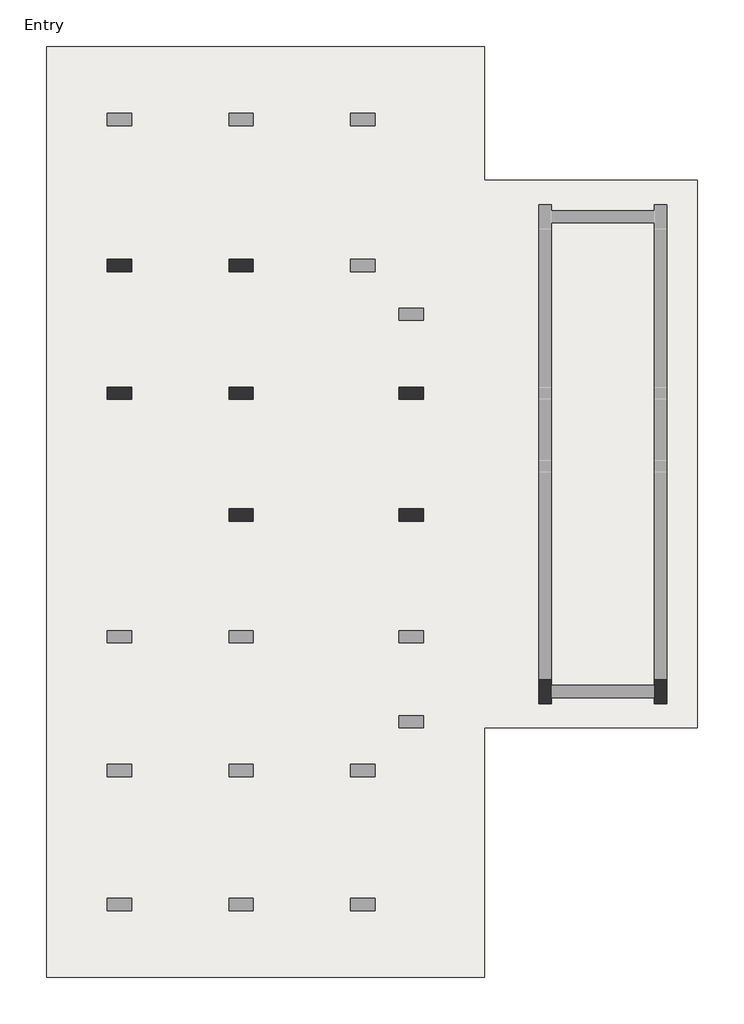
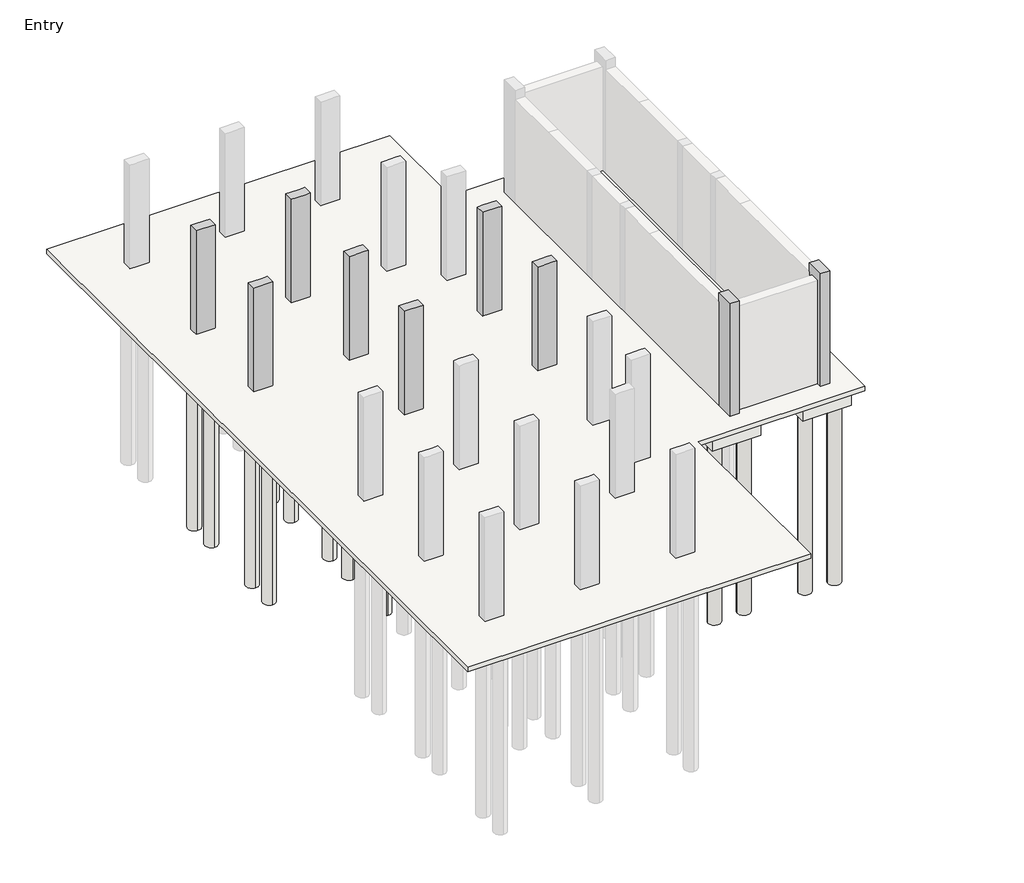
# One storey, part 2 of 3: 36 slabs, 9 columns, 3 footings.
"""IFC4 building model written with IfcOpenShell, lengths in millimetres."""

from ifc_helpers import new_model, si_unit, point, frame, frame_2d, origin, place, context, project, spatial, polyline, circle_curve, trimmed, segment, composite_curve, outline, extrude, faceted_brep, element, save

model = new_model("IFC4")

# Units and contexts
model_context = context("Model", 3, world=origin())
ifc_project = project(units=[si_unit("LENGTHUNIT", "METRE", prefix="MILLI")], contexts=[model_context])

# Site, building, storey
site = spatial("IfcSite", under=ifc_project)
building = spatial("IfcBuilding", under=site)
storey = spatial("IfcBuildingStorey", under=building, Name="Entry", Elevation=0.0)

# Columns
placement = place(None, origin())
element("IfcColumn", 1, ObjectType="Concrete-Rectangular-Column : 12 x 24", at=placement, inside=storey, context=model_context, shape_type="Brep", body=[
    faceted_brep([(-15967.1663981, 6616.5487848, 0.0), (-15357.5663981, 6616.5487848, 0.0), (-15357.5663981, 6311.7487848, 0.0), (-15967.1663981, 6311.7487848, 0.0), (-15967.1663981, 6616.5487848, 3505.2), (-15814.7663981, 6616.5487848, 3505.2), (-15509.9663981, 6616.5487848, 3505.2), (-15357.5663981, 6616.5487848, 3505.2), (-15357.5663981, 6616.5487848, 2895.6), (-15357.5663981, 6311.7487848, 3505.2), (-15357.5663981, 6311.7487848, 2895.6), (-15509.9663981, 6311.7487848, 3505.2), (-15814.7663981, 6311.7487848, 3505.2), (-15967.1663981, 6311.7487848, 3505.2)], [[[0, 1, 2, 3]], [[4, 5, 6, 7, 8, 1, 0]], [[7, 9, 10, 2, 1, 8]], [[9, 11, 12, 13, 3, 2, 10]], [[13, 4, 0, 3]], [[4, 13, 12, 11, 9, 7, 6, 5]]]),
])
element("IfcColumn", 2, ObjectType="Concrete-Rectangular-Column : 12 x 24", at=placement, inside=storey, context=model_context, shape_type="Brep", body=[
    faceted_brep([(-15967.1663981, 3416.1487848, 0.0), (-15357.5663981, 3416.1487848, 0.0), (-15357.5663981, 3111.3487848, 0.0), (-15967.1663981, 3111.3487848, 0.0), (-15967.1663981, 3416.1487848, 3505.2), (-15814.7663981, 3416.1487848, 3505.2), (-15509.9663981, 3416.1487848, 3505.2), (-15357.5663981, 3416.1487848, 3505.2), (-15357.5663981, 3416.1487848, 2895.6), (-15357.5663981, 3111.3487848, 3505.2), (-15357.5663981, 3111.3487848, 2895.6), (-15967.1663981, 3111.3487848, 3505.2)], [[[0, 1, 2, 3]], [[4, 5, 6, 7, 8, 1, 0]], [[7, 9, 10, 2, 1, 8]], [[9, 11, 3, 2, 10]], [[11, 4, 0, 3]], [[4, 11, 9, 7, 6, 5]]]),
])
element("IfcColumn", 3, ObjectType="Concrete-Rectangular-Column : 12 x 24", at=placement, inside=storey, context=model_context, shape_type="Brep", body=[
    faceted_brep([(-12919.1663981, 368.1487848, 0.0), (-12309.5663981, 368.1487848, 0.0), (-12309.5663981, 63.3487848, 0.0), (-12919.1663981, 63.3487848, 0.0), (-12919.1663981, 368.1487848, 3505.2), (-12766.7663981, 368.1487848, 3505.2), (-12461.9663981, 368.1487848, 3505.2), (-12309.5663981, 368.1487848, 3505.2), (-12309.5663981, 368.1487848, 2895.6), (-12309.5663981, 63.3487848, 3505.2), (-12309.5663981, 63.3487848, 2895.6), (-12461.9663981, 63.3487848, 3505.2), (-12766.7663981, 63.3487848, 3505.2), (-12919.1663981, 63.3487848, 3505.2)], [[[0, 1, 2, 3]], [[4, 5, 6, 7, 8, 1, 0]], [[7, 9, 10, 2, 1, 8]], [[9, 11, 12, 13, 3, 2, 10]], [[13, 4, 0, 3]], [[4, 13, 12, 11, 9, 7, 6, 5]]]),
])
element("IfcColumn", 4, ObjectType="Concrete-Rectangular-Column : 12 x 24", at=placement, inside=storey, context=model_context, shape_type="Brep", body=[
    faceted_brep([(-12919.1663981, 3416.1487848, 0.0), (-12309.5663981, 3416.1487848, 0.0), (-12309.5663981, 3111.3487848, 0.0), (-12919.1663981, 3111.3487848, 0.0), (-12919.1663981, 3416.1487848, 3505.2), (-12766.7663981, 3416.1487848, 3505.2), (-12461.9663981, 3416.1487848, 3505.2), (-12309.5663981, 3416.1487848, 3505.2), (-12309.5663981, 3416.1487848, 2895.6), (-12919.1663981, 3416.1487848, 2895.6), (-12309.5663981, 3111.3487848, 3505.2), (-12309.5663981, 3111.3487848, 2895.6), (-12461.9663981, 3111.3487848, 3505.2), (-12766.7663981, 3111.3487848, 3505.2), (-12919.1663981, 3111.3487848, 3505.2), (-12919.1663981, 3111.3487848, 2895.6)], [[[0, 1, 2, 3]], [[4, 5, 6, 7, 8, 1, 0, 9]], [[7, 10, 11, 2, 1, 8]], [[10, 12, 13, 14, 15, 3, 2, 11]], [[14, 4, 9, 0, 3, 15]], [[4, 14, 13, 12, 10, 7, 6, 5]]]),
])
element("IfcColumn", 5, ObjectType="Concrete-Rectangular-Column : 12 x 24", at=placement, inside=storey, context=model_context, shape_type="Brep", body=[
    faceted_brep([(-12919.1663981, 6616.5487848, 0.0), (-12309.5663981, 6616.5487848, 0.0), (-12309.5663981, 6311.7487848, 0.0), (-12919.1663981, 6311.7487848, 0.0), (-12919.1663981, 6616.5487848, 3505.2), (-12766.7663981, 6616.5487848, 3505.2), (-12461.9663981, 6616.5487848, 3505.2), (-12309.5663981, 6616.5487848, 3505.2), (-12309.5663981, 6616.5487848, 2895.6), (-12919.1663981, 6616.5487848, 2895.6), (-12309.5663981, 6311.7487848, 3505.2), (-12309.5663981, 6311.7487848, 2895.6), (-12461.9663981, 6311.7487848, 3505.2), (-12766.7663981, 6311.7487848, 3505.2), (-12919.1663981, 6311.7487848, 3505.2), (-12919.1663981, 6311.7487848, 2895.6)], [[[0, 1, 2, 3]], [[4, 5, 6, 7, 8, 1, 0, 9]], [[7, 10, 11, 2, 1, 8]], [[10, 12, 13, 14, 15, 3, 2, 11]], [[14, 4, 9, 0, 3, 15]], [[4, 14, 13, 12, 10, 7, 6, 5]]]),
])
element("IfcColumn", 6, ObjectType="Concrete-Rectangular-Column : 12 x 24", at=placement, inside=storey, context=model_context, shape_type="Brep", body=[
    faceted_brep([(-8651.9663981, 3416.1487848, 0.0), (-8042.3663981, 3416.1487848, 0.0), (-8042.3663981, 3111.3487848, 0.0), (-8651.9663981, 3111.3487848, 0.0), (-8651.9663981, 3416.1487848, 3505.2), (-8499.5663981, 3416.1487848, 3505.2), (-8194.7663981, 3416.1487848, 3505.2), (-8042.3663981, 3416.1487848, 3505.2), (-8042.3663981, 3416.1487848, 2895.6), (-8651.9663981, 3416.1487848, 2895.6), (-8042.3663981, 3111.3487848, 3505.2), (-8042.3663981, 3111.3487848, 2895.6), (-8194.7663981, 3111.3487848, 3505.2), (-8499.5663981, 3111.3487848, 3505.2), (-8651.9663981, 3111.3487848, 3505.2), (-8651.9663981, 3111.3487848, 2895.6)], [[[0, 1, 2, 3]], [[4, 5, 6, 7, 8, 1, 0, 9]], [[7, 10, 11, 2, 1, 8]], [[10, 12, 13, 14, 15, 3, 2, 11]], [[14, 4, 9, 0, 3, 15]], [[4, 14, 13, 12, 10, 7, 6, 5]]]),
])
element("IfcColumn", 7, ObjectType="Concrete-Rectangular-Column : 12 x 24", at=placement, inside=storey, context=model_context, shape_type="Brep", body=[
    faceted_brep([(-8651.9663981, 368.1487848, 0.0), (-8042.3663981, 368.1487848, 0.0), (-8042.3663981, 63.3487848, 0.0), (-8651.9663981, 63.3487848, 0.0), (-8651.9663981, 368.1487848, 3505.2), (-8499.5663981, 368.1487848, 3505.2), (-8194.7663981, 368.1487848, 3505.2), (-8042.3663981, 368.1487848, 3505.2), (-8651.9663981, 368.1487848, 2895.6), (-8042.3663981, 63.3487848, 3505.2), (-8194.7663981, 63.3487848, 3505.2), (-8499.5663981, 63.3487848, 3505.2), (-8651.9663981, 63.3487848, 3505.2), (-8651.9663981, 63.3487848, 2895.6)], [[[0, 1, 2, 3]], [[4, 5, 6, 7, 1, 0, 8]], [[7, 9, 2, 1]], [[9, 10, 11, 12, 13, 3, 2]], [[12, 4, 8, 0, 3, 13]], [[4, 12, 11, 10, 9, 7, 6, 5]]]),
])
element("IfcColumn", 8, ObjectType="Concrete-Rectangular-Column : 12 x 24", at=placement, inside=storey, context=model_context, shape_type="Brep", body=[
    faceted_brep([(-5146.7663981, -4508.6512152, 0.0), (-5146.7663981, -3899.0512152, 0.0), (-4841.9663981, -3899.0512152, 0.0), (-4841.9663981, -4051.4512152, 0.0), (-4841.9663981, -4356.2512152, 0.0), (-4841.9663981, -4508.6512152, 0.0), (-5146.7663981, -4508.6512152, 3810.0), (-5146.7663981, -3899.0512152, 3810.0), (-5146.7663981, -3899.0512152, 3505.2), (-4841.9663981, -3899.0512152, 3810.0), (-4841.9663981, -3899.0512152, 3505.2), (-4841.9663981, -4508.6512152, 3810.0)], [[[0, 1, 2, 3, 4, 5]], [[6, 7, 8, 1, 0]], [[7, 9, 10, 2, 1, 8]], [[9, 11, 5, 4, 3, 2, 10]], [[11, 6, 0, 5]], [[6, 11, 9, 7]]]),
])
element("IfcColumn", 9, ObjectType="Concrete-Rectangular-Column : 12 x 24", at=placement, inside=storey, context=model_context, shape_type="Brep", body=[
    faceted_brep([(-2251.1663981, -4508.6512152, 0.0), (-2251.1663981, -4356.2512152, 0.0), (-2251.1663981, -4051.4512152, 0.0), (-2251.1663981, -3899.0512152, 0.0), (-1946.3663981, -3899.0512152, 0.0), (-1946.3663981, -4508.6512152, 0.0), (-2251.1663981, -4508.6512152, 3810.0), (-2251.1663981, -3899.0512152, 3810.0), (-2251.1663981, -3899.0512152, 3505.2), (-1946.3663981, -3899.0512152, 3810.0), (-1946.3663981, -3899.0512152, 3505.2), (-1946.3663981, -4508.6512152, 3810.0)], [[[0, 1, 2, 3, 4, 5]], [[6, 7, 8, 3, 2, 1, 0]], [[7, 9, 10, 4, 3, 8]], [[9, 11, 5, 4, 10]], [[11, 6, 0, 5]], [[6, 11, 9, 7]]]),
])

# Footings
element("IfcFooting", 10, ObjectType="Bearing Footing - 36\" x 12\"", at=placement, inside=storey, context=model_context, shape_type="Brep", body=[
    faceted_brep([(-5400.7663981, 1282.5487848, -304.8), (-5451.5663981, 1282.5487848, -304.8), (-5451.5663981, 1282.5487848, -152.4), (-5400.7663981, 1282.5487848, -152.4), (-4537.1663981, 1282.5487848, -304.8), (-4587.9663981, 1282.5487848, -304.8), (-4587.9663981, 1282.5487848, -152.4), (-4537.1663981, 1282.5487848, -152.4), (-4537.1663981, -3797.4512152, -304.8), (-4537.1663981, -3746.6512152, -304.8), (-4537.1663981, -3746.6512152, -152.4), (-4537.1663981, -3797.4512152, -152.4), (-5400.7663981, 660.2487848, -304.8), (-4587.9663981, 660.2487848, -304.8), (-5451.5663981, -3797.4512152, -304.8), (-5451.5663981, -3797.4512152, -152.4), (-5400.7663981, 660.2487848, -152.4), (-4587.9663981, 660.2487848, -152.4)], [[[0, 1, 2, 3]], [[4, 5, 6, 7]], [[8, 9, 4, 7, 10, 11]], [[1, 0, 12, 13, 5, 4, 9, 8, 14]], [[1, 14, 15, 2]], [[12, 0, 3, 16]], [[13, 12, 16, 17]], [[5, 13, 17, 6]], [[14, 8, 11, 15]], [[7, 6, 17, 16, 3, 2, 15, 11, 10]]]),
])
element("IfcFooting", 11, ObjectType="Bearing Footing - 36\" x 12\"", at=placement, inside=storey, context=model_context, shape_type="Brep", body=[
    faceted_brep([(-2505.1663981, 1282.5487848, -304.8), (-2555.9663981, 1282.5487848, -304.8), (-2555.9663981, 1282.5487848, -152.4), (-2505.1663981, 1282.5487848, -152.4), (-1641.5663981, 1282.5487848, -304.8), (-1692.3663981, 1282.5487848, -304.8), (-1692.3663981, 1282.5487848, -152.4), (-1641.5663981, 1282.5487848, -152.4), (-1641.5663981, -3797.4512152, -304.8), (-1641.5663981, -3797.4512152, -152.4), (-2505.1663981, 660.2487848, -304.8), (-1692.3663981, 660.2487848, -304.8), (-2555.9663981, -3797.4512152, -304.8), (-2555.9663981, -3746.6512152, -304.8), (-2555.9663981, -3797.4512152, -152.4), (-2555.9663981, -3746.6512152, -152.4), (-2505.1663981, 660.2487848, -152.4), (-1692.3663981, 660.2487848, -152.4)], [[[0, 1, 2, 3]], [[4, 5, 6, 7]], [[8, 4, 7, 9]], [[1, 0, 10, 11, 5, 4, 8, 12, 13]], [[1, 13, 12, 14, 15, 2]], [[10, 0, 3, 16]], [[11, 10, 16, 17]], [[5, 11, 17, 6]], [[12, 8, 9, 14]], [[7, 6, 17, 16, 3, 2, 15, 14, 9]]]),
])
element("IfcFooting", 12, ObjectType="Bearing Footing - 36\" x 12\"", at=placement, inside=storey, context=model_context, shape_type="SweptSolid", body=[
    extrude(outline(polyline([(-2251.1663981, -4661.0512152), (-4841.9663981, -4661.0512152), (-4841.9663981, -4610.2512152), (-4219.6663981, -4610.2512152), (-4219.6663981, -3797.4512152), (-4537.1663981, -3797.4512152), (-4537.1663981, -3746.6512152), (-2555.9663981, -3746.6512152), (-2555.9663981, -3797.4512152), (-2873.4663981, -3797.4512152), (-2873.4663981, -4610.2512152), (-2251.1663981, -4610.2512152), (-2251.1663981, -4661.0512152)])), frame((0.0, 0.0, -304.8), z_axis=(0.0, 0.0, 1.0), x_axis=(1.0, 0.0, 0.0)), (0.0, 0.0, 1.0), 152.4),
])

# Slabs
element("IfcSlab", 13, ObjectType="6\" Foundation Slab", at=placement, inside=storey, context=model_context, shape_type="SweptSolid", body=[
    extrude(outline(polyline([(-6518.3663981, 11950.5487848), (-6518.3663981, 8597.7487848), (-1184.3663981, 8597.7487848), (-1184.3663981, -5118.2512152), (-6518.3663981, -5118.2512152), (-6518.3663981, -11366.6512152), (-17491.1663981, -11366.6512152), (-17491.1663981, 11950.5487848), (-6518.3663981, 11950.5487848)])), frame((0.0, 0.0, -152.4), z_axis=(0.0, 0.0, 1.0), x_axis=(1.0, 0.0, 0.0)), (0.0, 0.0, 1.0), 152.4),
])
element("IfcSlab", 14, ObjectType="Pile Cap-2 Pile : 31\"x61\"x35\"", at=placement, inside=storey, context=model_context, shape_type="SweptSolid", body=[
    extrude(outline(polyline([(-16068.7663981, 7238.8487848), (-15255.9663981, 7238.8487848), (-15255.9663981, 5689.4487848), (-16068.7663981, 5689.4487848), (-16068.7663981, 7238.8487848)])), frame((0.0, 0.0, -889.0), z_axis=(0.0, 0.0, 1.0), x_axis=(1.0, 0.0, 0.0)), (0.0, 0.0, 1.0), 736.6),
])
element("IfcSlab", 15, ObjectType="Pile Cap-2 Pile : 31\"x61\"x35\"", at=placement, inside=storey, context=model_context, shape_type="SweptSolid", body=[
    extrude(outline(polyline([(-16068.7663981, 4038.4487848), (-15255.9663981, 4038.4487848), (-15255.9663981, 2489.0487848), (-16068.7663981, 2489.0487848), (-16068.7663981, 4038.4487848)])), frame((0.0, 0.0, -889.0), z_axis=(0.0, 0.0, 1.0), x_axis=(1.0, 0.0, 0.0)), (0.0, 0.0, 1.0), 736.6),
])
element("IfcSlab", 16, ObjectType="Pile Cap-2 Pile : 31\"x61\"x35\"", at=placement, inside=storey, context=model_context, shape_type="SweptSolid", body=[
    extrude(outline(polyline([(-8753.5663981, -2057.5512152), (-7940.7663981, -2057.5512152), (-7940.7663981, -3606.9512152), (-8753.5663981, -3606.9512152), (-8753.5663981, -2057.5512152)])), frame((0.0, 0.0, -889.0), z_axis=(0.0, 0.0, 1.0), x_axis=(1.0, 0.0, 0.0)), (0.0, 0.0, 1.0), 736.6),
])
element("IfcSlab", 17, ObjectType="Pile Cap-2 Pile : 31\"x61\"x35\"", at=placement, inside=storey, context=model_context, shape_type="SweptSolid", body=[
    extrude(outline(polyline([(-8753.5663981, 990.4487848), (-7940.7663981, 990.4487848), (-7940.7663981, -558.9512152), (-8753.5663981, -558.9512152), (-8753.5663981, 990.4487848)])), frame((0.0, 0.0, -889.0), z_axis=(0.0, 0.0, 1.0), x_axis=(1.0, 0.0, 0.0)), (0.0, 0.0, 1.0), 736.6),
])
element("IfcSlab", 18, ObjectType="Pile Cap-2 Pile : 31\"x61\"x35\"", at=placement, inside=storey, context=model_context, shape_type="SweptSolid", body=[
    extrude(outline(polyline([(-8753.5663981, 4038.4487848), (-7940.7663981, 4038.4487848), (-7940.7663981, 2489.0487848), (-8753.5663981, 2489.0487848), (-8753.5663981, 4038.4487848)])), frame((0.0, 0.0, -889.0), z_axis=(0.0, 0.0, 1.0), x_axis=(1.0, 0.0, 0.0)), (0.0, 0.0, 1.0), 736.6),
])
element("IfcSlab", 19, ObjectType="Pile Cap-2 Pile : 31\"x61\"x35\"", at=placement, inside=storey, context=model_context, shape_type="Brep", body=[
    faceted_brep([(-5769.0663981, -4610.2512152, -889.0), (-5769.0663981, -3797.4512152, -889.0), (-4219.6663981, -3797.4512152, -889.0), (-4219.6663981, -4610.2512152, -889.0), (-4219.6663981, -4610.2512152, -304.8), (-4219.6663981, -4610.2512152, -152.4), (-4841.9663981, -4610.2512152, -152.4), (-5769.0663981, -4610.2512152, -152.4), (-4219.6663981, -3797.4512152, -304.8), (-4219.6663981, -3797.4512152, -152.4), (-5769.0663981, -3797.4512152, -152.4), (-5451.5663981, -3797.4512152, -152.4), (-4537.1663981, -3797.4512152, -152.4)], [[[0, 1, 2, 3]], [[0, 3, 4, 5, 6, 7]], [[3, 2, 8, 9, 5, 4]], [[2, 1, 10, 11, 12, 9, 8]], [[1, 0, 7, 10]], [[7, 6, 5, 9, 12, 11, 10]]]),
])
element("IfcSlab", 20, ObjectType="Pile Cap-2 Pile : 31\"x61\"x35\"", at=placement, inside=storey, context=model_context, shape_type="Brep", body=[
    faceted_brep([(-2873.4663981, -4610.2512152, -889.0), (-2873.4663981, -3797.4512152, -889.0), (-1324.0663981, -3797.4512152, -889.0), (-1324.0663981, -4610.2512152, -889.0), (-1324.0663981, -4610.2512152, -152.4), (-2251.1663981, -4610.2512152, -152.4), (-2873.4663981, -4610.2512152, -152.4), (-2873.4663981, -4610.2512152, -304.8), (-1324.0663981, -3797.4512152, -152.4), (-2873.4663981, -3797.4512152, -304.8), (-2873.4663981, -3797.4512152, -152.4), (-2555.9663981, -3797.4512152, -152.4), (-1641.5663981, -3797.4512152, -152.4)], [[[0, 1, 2, 3]], [[0, 3, 4, 5, 6, 7]], [[3, 2, 8, 4]], [[2, 1, 9, 10, 11, 12, 8]], [[1, 0, 7, 6, 10, 9]], [[6, 5, 4, 8, 12, 11, 10]]]),
])
element("IfcSlab", 21, ObjectType="Pile Cap-4 Pile : 72\"x72\"x35\"", at=placement, inside=storey, context=model_context, shape_type="SweptSolid", body=[
    extrude(outline(polyline([(-13528.7663981, 7378.5487848), (-11699.9663981, 7378.5487848), (-11699.9663981, 5549.7487848), (-13528.7663981, 5549.7487848), (-13528.7663981, 7378.5487848)])), frame((0.0, 0.0, -889.0), z_axis=(0.0, 0.0, 1.0), x_axis=(1.0, 0.0, 0.0)), (0.0, 0.0, 1.0), 736.6),
])
element("IfcSlab", 22, ObjectType="Pile Cap-4 Pile : 72\"x72\"x35\"", at=placement, inside=storey, context=model_context, shape_type="SweptSolid", body=[
    extrude(outline(polyline([(-13528.7663981, 4178.1487848), (-11699.9663981, 4178.1487848), (-11699.9663981, 2349.3487848), (-13528.7663981, 2349.3487848), (-13528.7663981, 4178.1487848)])), frame((0.0, 0.0, -889.0), z_axis=(0.0, 0.0, 1.0), x_axis=(1.0, 0.0, 0.0)), (0.0, 0.0, 1.0), 736.6),
])
element("IfcSlab", 23, ObjectType="Pile Cap-4 Pile : 72\"x72\"x35\"", at=placement, inside=storey, context=model_context, shape_type="SweptSolid", body=[
    extrude(outline(polyline([(-13528.7663981, 1130.1487848), (-11699.9663981, 1130.1487848), (-11699.9663981, -698.6512152), (-13528.7663981, -698.6512152), (-13528.7663981, 1130.1487848)])), frame((0.0, 0.0, -889.0), z_axis=(0.0, 0.0, 1.0), x_axis=(1.0, 0.0, 0.0)), (0.0, 0.0, 1.0), 736.6),
])
element("IfcSlab", 24, ObjectType="Pile-Steel Pipe : 16\" Diameter", at=placement, inside=storey, context=model_context, shape_type="SweptSolid", body=[
    extrude(outline(composite_curve([segment(trimmed(circle_curve(frame_2d((-13147.7663981, 5930.7487848)), 203.2), [point((-13147.7663981, 5727.5487848))], [point((-13147.7663981, 6133.9487848))], False, "CARTESIAN"), True, "CONTINUOUS"), segment(trimmed(circle_curve(frame_2d((-13147.7663981, 5930.7487848)), 203.2), [point((-13147.7663981, 6133.9487848))], [point((-13147.7663981, 5727.5487848))], False, "CARTESIAN"), True, "CONTINUOUS")], self_intersect=False)), frame((0.0, 0.0, -6985.0), z_axis=(0.0, 0.0, 1.0), x_axis=(1.0, 0.0, 0.0)), (0.0, 0.0, 1.0), 6096.0),
])
element("IfcSlab", 25, ObjectType="Pile-Steel Pipe : 16\" Diameter", at=placement, inside=storey, context=model_context, shape_type="SweptSolid", body=[
    extrude(outline(composite_curve([segment(trimmed(circle_curve(frame_2d((-12080.9663981, 5930.7487848)), 203.2), [point((-12080.9663981, 5727.5487848))], [point((-12080.9663981, 6133.9487848))], False, "CARTESIAN"), True, "CONTINUOUS"), segment(trimmed(circle_curve(frame_2d((-12080.9663981, 5930.7487848)), 203.2), [point((-12080.9663981, 6133.9487848))], [point((-12080.9663981, 5727.5487848))], False, "CARTESIAN"), True, "CONTINUOUS")], self_intersect=False)), frame((0.0, 0.0, -6985.0), z_axis=(0.0, 0.0, 1.0), x_axis=(1.0, 0.0, 0.0)), (0.0, 0.0, 1.0), 6096.0),
])
element("IfcSlab", 26, ObjectType="Pile-Steel Pipe : 16\" Diameter", at=placement, inside=storey, context=model_context, shape_type="SweptSolid", body=[
    extrude(outline(composite_curve([segment(trimmed(circle_curve(frame_2d((-12080.9663981, 6997.5487848)), 203.2), [point((-12080.9663981, 6794.3487848))], [point((-12080.9663981, 7200.7487848))], False, "CARTESIAN"), True, "CONTINUOUS"), segment(trimmed(circle_curve(frame_2d((-12080.9663981, 6997.5487848)), 203.2), [point((-12080.9663981, 7200.7487848))], [point((-12080.9663981, 6794.3487848))], False, "CARTESIAN"), True, "CONTINUOUS")], self_intersect=False)), frame((0.0, 0.0, -6985.0), z_axis=(0.0, 0.0, 1.0), x_axis=(1.0, 0.0, 0.0)), (0.0, 0.0, 1.0), 6096.0),
])
element("IfcSlab", 27, ObjectType="Pile-Steel Pipe : 16\" Diameter", at=placement, inside=storey, context=model_context, shape_type="SweptSolid", body=[
    extrude(outline(composite_curve([segment(trimmed(circle_curve(frame_2d((-13147.7663981, 6997.5487848)), 203.2), [point((-13147.7663981, 6794.3487848))], [point((-13147.7663981, 7200.7487848))], False, "CARTESIAN"), True, "CONTINUOUS"), segment(trimmed(circle_curve(frame_2d((-13147.7663981, 6997.5487848)), 203.2), [point((-13147.7663981, 7200.7487848))], [point((-13147.7663981, 6794.3487848))], False, "CARTESIAN"), True, "CONTINUOUS")], self_intersect=False)), frame((0.0, 0.0, -6985.0), z_axis=(0.0, 0.0, 1.0), x_axis=(1.0, 0.0, 0.0)), (0.0, 0.0, 1.0), 6096.0),
])
element("IfcSlab", 28, ObjectType="Pile-Steel Pipe : 16\" Diameter", at=placement, inside=storey, context=model_context, shape_type="SweptSolid", body=[
    extrude(outline(composite_curve([segment(trimmed(circle_curve(frame_2d((-13147.7663981, 2730.3487848)), 203.2), [point((-13147.7663981, 2527.1487848))], [point((-13147.7663981, 2933.5487848))], False, "CARTESIAN"), True, "CONTINUOUS"), segment(trimmed(circle_curve(frame_2d((-13147.7663981, 2730.3487848)), 203.2), [point((-13147.7663981, 2933.5487848))], [point((-13147.7663981, 2527.1487848))], False, "CARTESIAN"), True, "CONTINUOUS")], self_intersect=False)), frame((0.0, 0.0, -6985.0), z_axis=(0.0, 0.0, 1.0), x_axis=(1.0, 0.0, 0.0)), (0.0, 0.0, 1.0), 6096.0),
])
element("IfcSlab", 29, ObjectType="Pile-Steel Pipe : 16\" Diameter", at=placement, inside=storey, context=model_context, shape_type="SweptSolid", body=[
    extrude(outline(composite_curve([segment(trimmed(circle_curve(frame_2d((-12080.9663981, 2730.3487848)), 203.2), [point((-12080.9663981, 2527.1487848))], [point((-12080.9663981, 2933.5487848))], False, "CARTESIAN"), True, "CONTINUOUS"), segment(trimmed(circle_curve(frame_2d((-12080.9663981, 2730.3487848)), 203.2), [point((-12080.9663981, 2933.5487848))], [point((-12080.9663981, 2527.1487848))], False, "CARTESIAN"), True, "CONTINUOUS")], self_intersect=False)), frame((0.0, 0.0, -6985.0), z_axis=(0.0, 0.0, 1.0), x_axis=(1.0, 0.0, 0.0)), (0.0, 0.0, 1.0), 6096.0),
])
element("IfcSlab", 30, ObjectType="Pile-Steel Pipe : 16\" Diameter", at=placement, inside=storey, context=model_context, shape_type="SweptSolid", body=[
    extrude(outline(composite_curve([segment(trimmed(circle_curve(frame_2d((-12080.9663981, 3797.1487848)), 203.2), [point((-12080.9663981, 3593.9487848))], [point((-12080.9663981, 4000.3487848))], False, "CARTESIAN"), True, "CONTINUOUS"), segment(trimmed(circle_curve(frame_2d((-12080.9663981, 3797.1487848)), 203.2), [point((-12080.9663981, 4000.3487848))], [point((-12080.9663981, 3593.9487848))], False, "CARTESIAN"), True, "CONTINUOUS")], self_intersect=False)), frame((0.0, 0.0, -6985.0), z_axis=(0.0, 0.0, 1.0), x_axis=(1.0, 0.0, 0.0)), (0.0, 0.0, 1.0), 6096.0),
])
element("IfcSlab", 31, ObjectType="Pile-Steel Pipe : 16\" Diameter", at=placement, inside=storey, context=model_context, shape_type="SweptSolid", body=[
    extrude(outline(composite_curve([segment(trimmed(circle_curve(frame_2d((-13147.7663981, 3797.1487848)), 203.2), [point((-13147.7663981, 3593.9487848))], [point((-13147.7663981, 4000.3487848))], False, "CARTESIAN"), True, "CONTINUOUS"), segment(trimmed(circle_curve(frame_2d((-13147.7663981, 3797.1487848)), 203.2), [point((-13147.7663981, 4000.3487848))], [point((-13147.7663981, 3593.9487848))], False, "CARTESIAN"), True, "CONTINUOUS")], self_intersect=False)), frame((0.0, 0.0, -6985.0), z_axis=(0.0, 0.0, 1.0), x_axis=(1.0, 0.0, 0.0)), (0.0, 0.0, 1.0), 6096.0),
])
element("IfcSlab", 32, ObjectType="Pile-Steel Pipe : 16\" Diameter", at=placement, inside=storey, context=model_context, shape_type="SweptSolid", body=[
    extrude(outline(composite_curve([segment(trimmed(circle_curve(frame_2d((-12080.9663981, 749.1487848)), 203.2), [point((-12080.9663981, 545.9487848))], [point((-12080.9663981, 952.3487848))], False, "CARTESIAN"), True, "CONTINUOUS"), segment(trimmed(circle_curve(frame_2d((-12080.9663981, 749.1487848)), 203.2), [point((-12080.9663981, 952.3487848))], [point((-12080.9663981, 545.9487848))], False, "CARTESIAN"), True, "CONTINUOUS")], self_intersect=False)), frame((0.0, 0.0, -6985.0), z_axis=(0.0, 0.0, 1.0), x_axis=(1.0, 0.0, 0.0)), (0.0, 0.0, 1.0), 6096.0),
])
element("IfcSlab", 33, ObjectType="Pile-Steel Pipe : 16\" Diameter", at=placement, inside=storey, context=model_context, shape_type="SweptSolid", body=[
    extrude(outline(composite_curve([segment(trimmed(circle_curve(frame_2d((-13147.7663981, 749.1487848)), 203.2), [point((-13147.7663981, 545.9487848))], [point((-13147.7663981, 952.3487848))], False, "CARTESIAN"), True, "CONTINUOUS"), segment(trimmed(circle_curve(frame_2d((-13147.7663981, 749.1487848)), 203.2), [point((-13147.7663981, 952.3487848))], [point((-13147.7663981, 545.9487848))], False, "CARTESIAN"), True, "CONTINUOUS")], self_intersect=False)), frame((0.0, 0.0, -6985.0), z_axis=(0.0, 0.0, 1.0), x_axis=(1.0, 0.0, 0.0)), (0.0, 0.0, 1.0), 6096.0),
])
element("IfcSlab", 34, ObjectType="Pile-Steel Pipe : 16\" Diameter", at=placement, inside=storey, context=model_context, shape_type="SweptSolid", body=[
    extrude(outline(composite_curve([segment(trimmed(circle_curve(frame_2d((-15662.3663981, 5994.2487848)), 203.2), [point((-15662.3663981, 5791.0487848))], [point((-15662.3663981, 6197.4487848))], False, "CARTESIAN"), True, "CONTINUOUS"), segment(trimmed(circle_curve(frame_2d((-15662.3663981, 5994.2487848)), 203.2), [point((-15662.3663981, 6197.4487848))], [point((-15662.3663981, 5791.0487848))], False, "CARTESIAN"), True, "CONTINUOUS")], self_intersect=False)), frame((0.0, 0.0, -6985.0), z_axis=(0.0, 0.0, 1.0), x_axis=(1.0, 0.0, 0.0)), (0.0, 0.0, 1.0), 6096.0),
])
element("IfcSlab", 35, ObjectType="Pile-Steel Pipe : 16\" Diameter", at=placement, inside=storey, context=model_context, shape_type="SweptSolid", body=[
    extrude(outline(composite_curve([segment(trimmed(circle_curve(frame_2d((-15662.3663981, 6934.0487848)), 203.2), [point((-15662.3663981, 6730.8487848))], [point((-15662.3663981, 7137.2487848))], False, "CARTESIAN"), True, "CONTINUOUS"), segment(trimmed(circle_curve(frame_2d((-15662.3663981, 6934.0487848)), 203.2), [point((-15662.3663981, 7137.2487848))], [point((-15662.3663981, 6730.8487848))], False, "CARTESIAN"), True, "CONTINUOUS")], self_intersect=False)), frame((0.0, 0.0, -6985.0), z_axis=(0.0, 0.0, 1.0), x_axis=(1.0, 0.0, 0.0)), (0.0, 0.0, 1.0), 6096.0),
])
element("IfcSlab", 36, ObjectType="Pile-Steel Pipe : 16\" Diameter", at=placement, inside=storey, context=model_context, shape_type="SweptSolid", body=[
    extrude(outline(composite_curve([segment(trimmed(circle_curve(frame_2d((-15662.3663981, 2793.8487848)), 203.2), [point((-15662.3663981, 2590.6487848))], [point((-15662.3663981, 2997.0487848))], False, "CARTESIAN"), True, "CONTINUOUS"), segment(trimmed(circle_curve(frame_2d((-15662.3663981, 2793.8487848)), 203.2), [point((-15662.3663981, 2997.0487848))], [point((-15662.3663981, 2590.6487848))], False, "CARTESIAN"), True, "CONTINUOUS")], self_intersect=False)), frame((0.0, 0.0, -6985.0), z_axis=(0.0, 0.0, 1.0), x_axis=(1.0, 0.0, 0.0)), (0.0, 0.0, 1.0), 6096.0),
])
element("IfcSlab", 37, ObjectType="Pile-Steel Pipe : 16\" Diameter", at=placement, inside=storey, context=model_context, shape_type="SweptSolid", body=[
    extrude(outline(composite_curve([segment(trimmed(circle_curve(frame_2d((-15662.3663981, 3733.6487848)), 203.2), [point((-15662.3663981, 3530.4487848))], [point((-15662.3663981, 3936.8487848))], False, "CARTESIAN"), True, "CONTINUOUS"), segment(trimmed(circle_curve(frame_2d((-15662.3663981, 3733.6487848)), 203.2), [point((-15662.3663981, 3936.8487848))], [point((-15662.3663981, 3530.4487848))], False, "CARTESIAN"), True, "CONTINUOUS")], self_intersect=False)), frame((0.0, 0.0, -6985.0), z_axis=(0.0, 0.0, 1.0), x_axis=(1.0, 0.0, 0.0)), (0.0, 0.0, 1.0), 6096.0),
])
element("IfcSlab", 38, ObjectType="Pile-Steel Pipe : 16\" Diameter", at=placement, inside=storey, context=model_context, shape_type="SweptSolid", body=[
    extrude(outline(composite_curve([segment(trimmed(circle_curve(frame_2d((-9566.3663981, 5994.2487848)), 203.2), [point((-9566.3663981, 5791.0487848))], [point((-9566.3663981, 6197.4487848))], False, "CARTESIAN"), True, "CONTINUOUS"), segment(trimmed(circle_curve(frame_2d((-9566.3663981, 5994.2487848)), 203.2), [point((-9566.3663981, 6197.4487848))], [point((-9566.3663981, 5791.0487848))], False, "CARTESIAN"), True, "CONTINUOUS")], self_intersect=False)), frame((0.0, 0.0, -6985.0), z_axis=(0.0, 0.0, 1.0), x_axis=(1.0, 0.0, 0.0)), (0.0, 0.0, 1.0), 6096.0),
])
element("IfcSlab", 39, ObjectType="Pile-Steel Pipe : 16\" Diameter", at=placement, inside=storey, context=model_context, shape_type="SweptSolid", body=[
    extrude(outline(composite_curve([segment(trimmed(circle_curve(frame_2d((-8347.1663981, -2362.3512152)), 203.2), [point((-8347.1663981, -2565.5512152))], [point((-8347.1663981, -2159.1512152))], False, "CARTESIAN"), True, "CONTINUOUS"), segment(trimmed(circle_curve(frame_2d((-8347.1663981, -2362.3512152)), 203.2), [point((-8347.1663981, -2159.1512152))], [point((-8347.1663981, -2565.5512152))], False, "CARTESIAN"), True, "CONTINUOUS")], self_intersect=False)), frame((0.0, 0.0, -6985.0), z_axis=(0.0, 0.0, 1.0), x_axis=(1.0, 0.0, 0.0)), (0.0, 0.0, 1.0), 6096.0),
])
element("IfcSlab", 40, ObjectType="Pile-Steel Pipe : 16\" Diameter", at=placement, inside=storey, context=model_context, shape_type="SweptSolid", body=[
    extrude(outline(composite_curve([segment(trimmed(circle_curve(frame_2d((-8347.1663981, -254.1512152)), 203.2), [point((-8347.1663981, -457.3512152))], [point((-8347.1663981, -50.9512152))], False, "CARTESIAN"), True, "CONTINUOUS"), segment(trimmed(circle_curve(frame_2d((-8347.1663981, -254.1512152)), 203.2), [point((-8347.1663981, -50.9512152))], [point((-8347.1663981, -457.3512152))], False, "CARTESIAN"), True, "CONTINUOUS")], self_intersect=False)), frame((0.0, 0.0, -6985.0), z_axis=(0.0, 0.0, 1.0), x_axis=(1.0, 0.0, 0.0)), (0.0, 0.0, 1.0), 6096.0),
])
element("IfcSlab", 41, ObjectType="Pile-Steel Pipe : 16\" Diameter", at=placement, inside=storey, context=model_context, shape_type="SweptSolid", body=[
    extrude(outline(composite_curve([segment(trimmed(circle_curve(frame_2d((-8347.1663981, 685.6487848)), 203.2), [point((-8347.1663981, 482.4487848))], [point((-8347.1663981, 888.8487848))], False, "CARTESIAN"), True, "CONTINUOUS"), segment(trimmed(circle_curve(frame_2d((-8347.1663981, 685.6487848)), 203.2), [point((-8347.1663981, 888.8487848))], [point((-8347.1663981, 482.4487848))], False, "CARTESIAN"), True, "CONTINUOUS")], self_intersect=False)), frame((0.0, 0.0, -6985.0), z_axis=(0.0, 0.0, 1.0), x_axis=(1.0, 0.0, 0.0)), (0.0, 0.0, 1.0), 6096.0),
])
element("IfcSlab", 42, ObjectType="Pile-Steel Pipe : 16\" Diameter", at=placement, inside=storey, context=model_context, shape_type="SweptSolid", body=[
    extrude(outline(composite_curve([segment(trimmed(circle_curve(frame_2d((-8347.1663981, 2793.8487848)), 203.2), [point((-8347.1663981, 2590.6487848))], [point((-8347.1663981, 2997.0487848))], False, "CARTESIAN"), True, "CONTINUOUS"), segment(trimmed(circle_curve(frame_2d((-8347.1663981, 2793.8487848)), 203.2), [point((-8347.1663981, 2997.0487848))], [point((-8347.1663981, 2590.6487848))], False, "CARTESIAN"), True, "CONTINUOUS")], self_intersect=False)), frame((0.0, 0.0, -6985.0), z_axis=(0.0, 0.0, 1.0), x_axis=(1.0, 0.0, 0.0)), (0.0, 0.0, 1.0), 6096.0),
])
element("IfcSlab", 43, ObjectType="Pile-Steel Pipe : 16\" Diameter", at=placement, inside=storey, context=model_context, shape_type="SweptSolid", body=[
    extrude(outline(composite_curve([segment(trimmed(circle_curve(frame_2d((-8347.1663981, 3733.6487848)), 203.2), [point((-8347.1663981, 3530.4487848))], [point((-8347.1663981, 3936.8487848))], False, "CARTESIAN"), True, "CONTINUOUS"), segment(trimmed(circle_curve(frame_2d((-8347.1663981, 3733.6487848)), 203.2), [point((-8347.1663981, 3936.8487848))], [point((-8347.1663981, 3530.4487848))], False, "CARTESIAN"), True, "CONTINUOUS")], self_intersect=False)), frame((0.0, 0.0, -6985.0), z_axis=(0.0, 0.0, 1.0), x_axis=(1.0, 0.0, 0.0)), (0.0, 0.0, 1.0), 6096.0),
])
element("IfcSlab", 44, ObjectType="Pile-Steel Pipe : 16\" Diameter", at=placement, inside=storey, context=model_context, shape_type="SweptSolid", body=[
    extrude(outline(composite_curve([segment(trimmed(circle_curve(frame_2d((-4524.4663981, -4203.8512152)), 203.2), [point((-4321.2663981, -4203.8512152))], [point((-4727.6663981, -4203.8512152))], False, "CARTESIAN"), True, "CONTINUOUS"), segment(trimmed(circle_curve(frame_2d((-4524.4663981, -4203.8512152)), 203.2), [point((-4727.6663981, -4203.8512152))], [point((-4321.2663981, -4203.8512152))], False, "CARTESIAN"), True, "CONTINUOUS")], self_intersect=False)), frame((0.0, 0.0, -6985.0), z_axis=(0.0, 0.0, 1.0), x_axis=(1.0, 0.0, 0.0)), (0.0, 0.0, 1.0), 6096.0),
])
element("IfcSlab", 45, ObjectType="Pile-Steel Pipe : 16\" Diameter", at=placement, inside=storey, context=model_context, shape_type="SweptSolid", body=[
    extrude(outline(composite_curve([segment(trimmed(circle_curve(frame_2d((-5464.2663981, -4203.8512152)), 203.2), [point((-5261.0663981, -4203.8512152))], [point((-5667.4663981, -4203.8512152))], False, "CARTESIAN"), True, "CONTINUOUS"), segment(trimmed(circle_curve(frame_2d((-5464.2663981, -4203.8512152)), 203.2), [point((-5667.4663981, -4203.8512152))], [point((-5261.0663981, -4203.8512152))], False, "CARTESIAN"), True, "CONTINUOUS")], self_intersect=False)), frame((0.0, 0.0, -6985.0), z_axis=(0.0, 0.0, 1.0), x_axis=(1.0, 0.0, 0.0)), (0.0, 0.0, 1.0), 6096.0),
])
element("IfcSlab", 46, ObjectType="Pile-Steel Pipe : 16\" Diameter", at=placement, inside=storey, context=model_context, shape_type="SweptSolid", body=[
    extrude(outline(composite_curve([segment(trimmed(circle_curve(frame_2d((-1628.8663981, -4203.8512152)), 203.2), [point((-1425.6663981, -4203.8512152))], [point((-1832.0663981, -4203.8512152))], False, "CARTESIAN"), True, "CONTINUOUS"), segment(trimmed(circle_curve(frame_2d((-1628.8663981, -4203.8512152)), 203.2), [point((-1832.0663981, -4203.8512152))], [point((-1425.6663981, -4203.8512152))], False, "CARTESIAN"), True, "CONTINUOUS")], self_intersect=False)), frame((0.0, 0.0, -6985.0), z_axis=(0.0, 0.0, 1.0), x_axis=(1.0, 0.0, 0.0)), (0.0, 0.0, 1.0), 6096.0),
])
element("IfcSlab", 47, ObjectType="Pile-Steel Pipe : 16\" Diameter", at=placement, inside=storey, context=model_context, shape_type="SweptSolid", body=[
    extrude(outline(composite_curve([segment(trimmed(circle_curve(frame_2d((-2568.6663981, -4203.8512152)), 203.2), [point((-2365.4663981, -4203.8512152))], [point((-2771.8663981, -4203.8512152))], False, "CARTESIAN"), True, "CONTINUOUS"), segment(trimmed(circle_curve(frame_2d((-2568.6663981, -4203.8512152)), 203.2), [point((-2771.8663981, -4203.8512152))], [point((-2365.4663981, -4203.8512152))], False, "CARTESIAN"), True, "CONTINUOUS")], self_intersect=False)), frame((0.0, 0.0, -6985.0), z_axis=(0.0, 0.0, 1.0), x_axis=(1.0, 0.0, 0.0)), (0.0, 0.0, 1.0), 6096.0),
])
element("IfcSlab", 48, ObjectType="Pile-Steel Pipe : 16\" Diameter", at=placement, inside=storey, context=model_context, shape_type="SweptSolid", body=[
    extrude(outline(composite_curve([segment(trimmed(circle_curve(frame_2d((-8347.1663981, 4775.0487848)), 203.2), [point((-8347.1663981, 4978.2487848))], [point((-8347.1663981, 4571.8487848))], False, "CARTESIAN"), True, "CONTINUOUS"), segment(trimmed(circle_curve(frame_2d((-8347.1663981, 4775.0487848)), 203.2), [point((-8347.1663981, 4571.8487848))], [point((-8347.1663981, 4978.2487848))], False, "CARTESIAN"), True, "CONTINUOUS")], self_intersect=False)), frame((0.0, 0.0, -6985.0), z_axis=(0.0, 0.0, 1.0), x_axis=(1.0, 0.0, 0.0)), (0.0, 0.0, 1.0), 6096.0),
])

save(model, "model.ifc")
